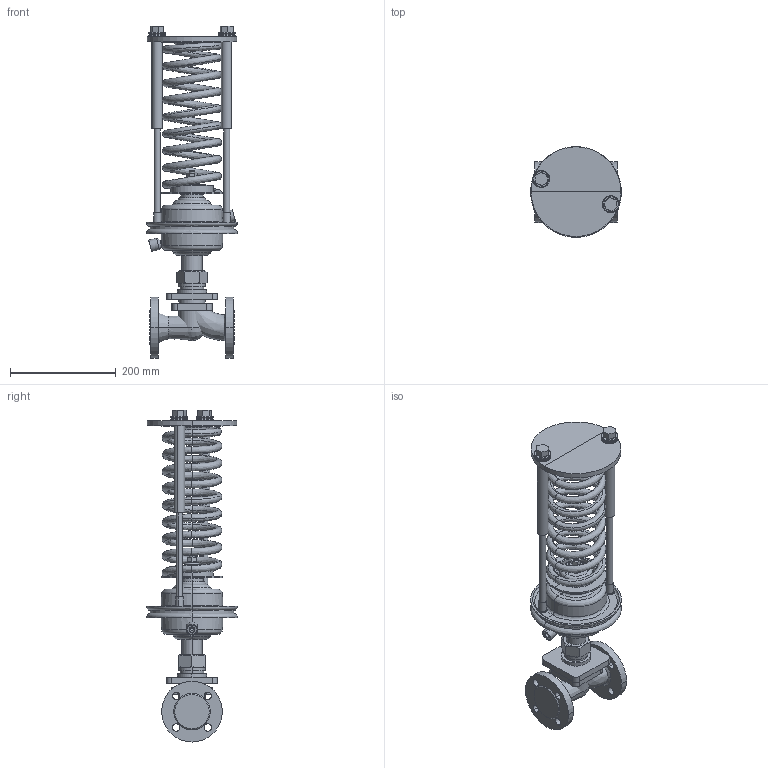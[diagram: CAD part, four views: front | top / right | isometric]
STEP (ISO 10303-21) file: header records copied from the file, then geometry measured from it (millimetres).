
FILE_DESCRIPTION(/* description */ (''),/* implementation_level */ '2;1');
FILE_NAME(/* name */ 'ETM_Регулятор давления_УРРД_НЗ_РД_DN25 0.05—0.3 МПа',/* time_stamp */ '2026-04-24T18:40:38+03:00',/* author */ (''),/* organization */ (''),/* preprocessor_version */ 'ST-DEVELOPER v20',/* originating_system */ '',/* authorisation */ '');
FILE_SCHEMA (('AP242_MANAGED_MODEL_BASED_3D_ENGINEERING_MIM_LF { 1 0 10303 442 1 1 4 }'));
Length unit declared in the file: millimetre
Products named in the file (13): TopLevelAssembly; Выдавливание; Переход; Выдавливание_
1; Переход_1; Переход_2; Переход_3; Выдавливание_
2; Объемная геометрия 
присоединена; Выдавливание_
3; Объемная геометрия 
присоединена_1; Выдавливание_
4; Пружина красная
Assembly tree (12 placements, depth 2):
  TopLevelAssembly
    Выдавливание
    Переход
    Выдавливание_
1
    Переход_1
    Переход_2
    Переход_3
    Выдавливание_
2
    Объемная геометрия 
присоединена
    Выдавливание_
3
    Объемная геометрия 
присоединена_1
    Выдавливание_
4
    Пружина красная
Bounding box: 171.97 x 171.97 x 628.85 mm (x, y, z)
Volume: 2924370.2 mm3; surface area: 574071.6 mm2
Topology: 31 solids, 31 shells, 518 faces, 1040 edges, 564 vertices
Faces by surface type: plane 189, bspline 177, cylinder 142, cone 10
Entity records: 16512 total; most frequent: CARTESIAN_POINT 5343, DIRECTION 2347, ORIENTED_EDGE 2076, EDGE_CURVE 1038, AXIS2_PLACEMENT_3D 977, CIRCLE 611, VERTEX_POINT 564, EDGE_LOOP 540
